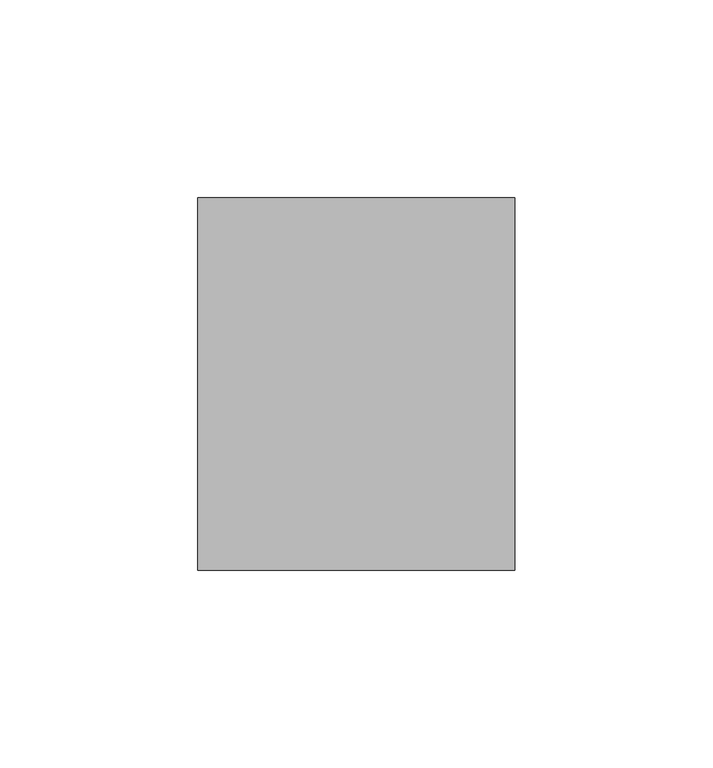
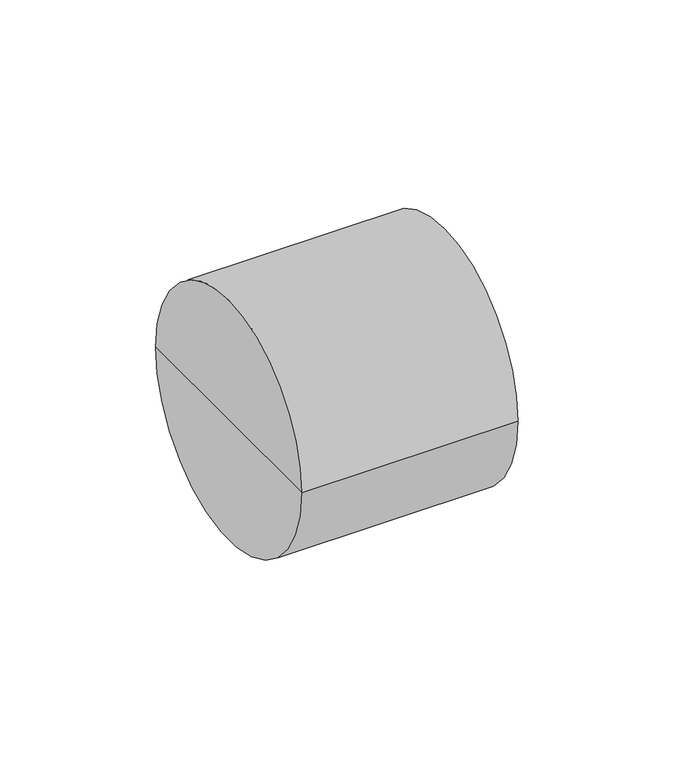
"""IFC4 building model written with IfcOpenShell, lengths in millimetres: cable carrier fitting geometry, Муфта_соединительная_для_двустенной_трубы : Муфта соединительная для двухстенной трубы D90мм."""

from ifc_helpers import new_model, si_unit, frame, origin, place, context, project, spatial, circle_curve, source, transform, mapped, element, save
from ifc_brep_helpers import plane_surface, cylinder_surface, advanced_brep


def cable_carrier_fitting_de8c5855(model_context):
    return source(origin(), model_context, "Body", "AdvancedBrep", [
        advanced_brep(
        [(-40.0, -47.0, 0.0), (-40.0, 47.0, 0.0), (40.0, 47.0, 0.0), (40.0, -47.0, 0.0), (-40.0, 0.0, 0.0), (40.0, 0.0, 0.0)],
        [
            (0, 1, circle_curve(frame((-40.0, 0.0, 0.0), z_axis=(1.0, 0.0, 0.0), x_axis=(0.0, 1.0, 0.0)), 47.0)),
            (1, 2),
            (2, 3, circle_curve(frame((40.0, 0.0, 0.0), z_axis=(-1.0, 0.0, 0.0), x_axis=(0.0, 1.0, 0.0)), 47.0)),
            (3, 0),
            (1, 0, circle_curve(frame((-40.0, 0.0, 0.0), z_axis=(1.0, 0.0, 0.0), x_axis=(0.0, 1.0, 0.0)), 47.0)),
            (3, 2, circle_curve(frame((40.0, 0.0, 0.0), z_axis=(-1.0, 0.0, 0.0), x_axis=(0.0, 1.0, 0.0)), 47.0)),
            (4, 1),
            (0, 4),
            (2, 5),
            (5, 3),
        ],
        [
            cylinder_surface(frame((1965.0, 0.0, 0.0), z_axis=(-1.0, 0.0, 0.0), x_axis=(0.0, 1.0, 0.0)), 47.0),
            plane_surface(frame((-40.0, 0.0, 0.0), z_axis=(-1.0, 0.0, 0.0), x_axis=(0.0, 1.0, 0.0))),
            plane_surface(frame((40.0, 0.0, 0.0), z_axis=(1.0, 0.0, 0.0), x_axis=(0.0, 1.0, 0.0))),
        ],
        [
            (0, [[1, 2, 3, 4]]),
            (0, [[5, -4, 6, -2]]),
            (1, [[7, -1, 8]]),
            (1, [[-8, -5, -7]]),
            (2, [[-3, 9, 10]]),
            (2, [[-6, -10, -9]]),
        ],
    ),
    ])


if __name__ == "__main__":
    model = new_model("IFC4")
    model_context = context("Model", 3, world=origin())
    ifc_project = project(units=[si_unit("LENGTHUNIT", "METRE", prefix="MILLI")], contexts=[model_context])
    site = spatial("IfcSite", under=ifc_project)
    building = spatial("IfcBuilding", under=site)
    placement = place(None, origin())
    cable_carrier_fitting_shape = cable_carrier_fitting_de8c5855(model_context)
    element("IfcCableCarrierFitting", 1, ObjectType="Муфта_соединительная_для_двустенной_трубы : Муфта соединительная для двухстенной трубы D90мм", at=placement, inside=building, context=model_context, shape_type="MappedRepresentation", body=[
        mapped(cable_carrier_fitting_shape, transform((0.0, 0.0, 0.0), x_axis=(1.0, 0.0, 0.0), y_axis=(0.0, 1.0, 0.0), z_axis=(0.0, 0.0, 1.0))),
    ])
    save(model, "model.ifc")
